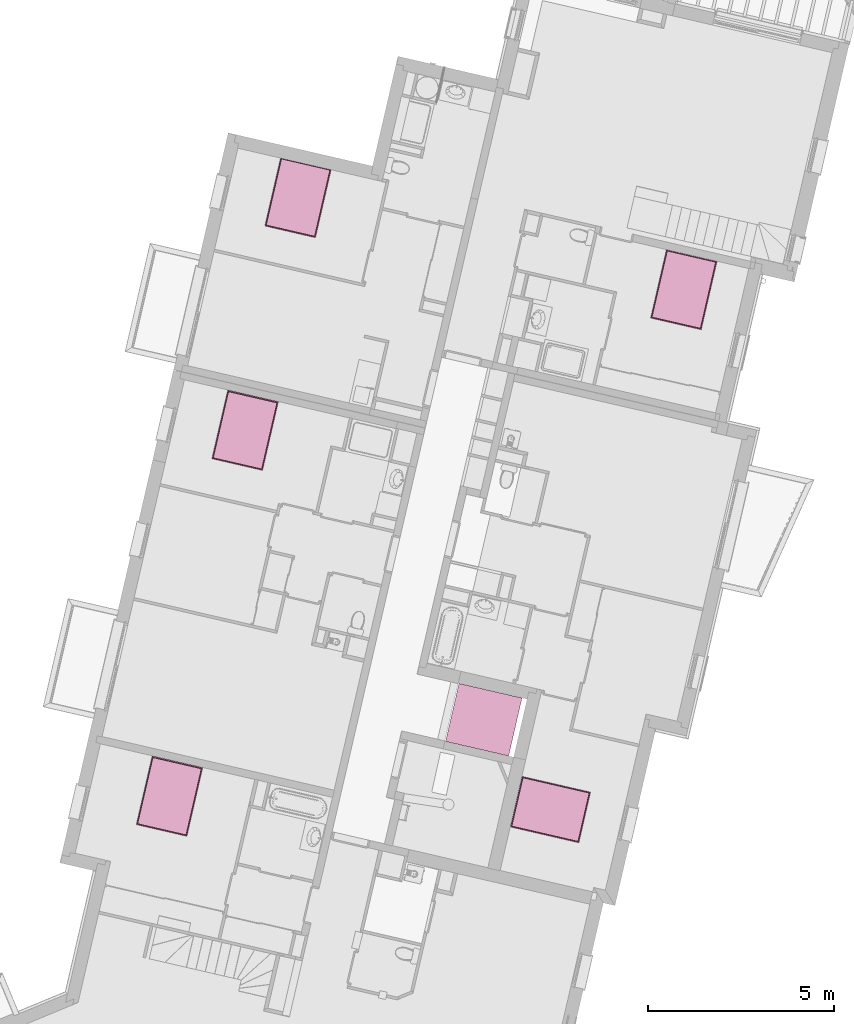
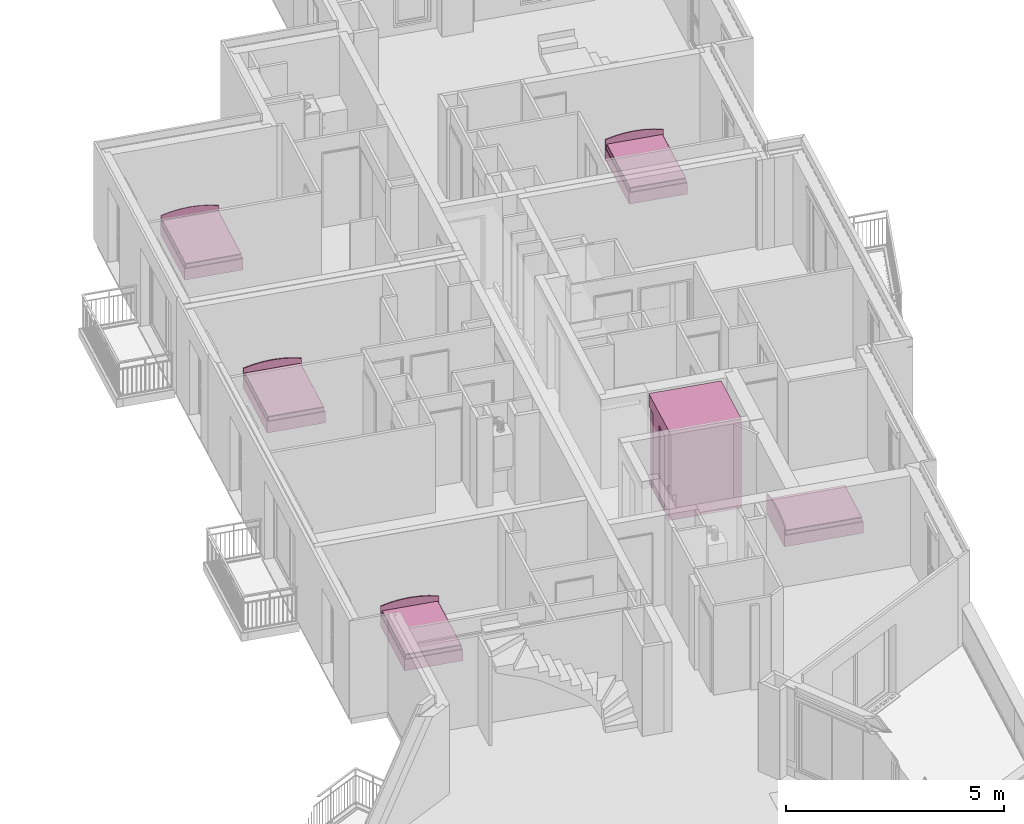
# One storey, part 56 of 62: 5 furnishings, 1 transport element.
"""IFC2X3 building model written with IfcOpenShell, lengths in metres."""

from ifc_helpers import new_model, entity, si_unit, converted_unit, derived_unit, money_unit, direction, frame, origin_with_axes, place, context, subcontext, project, spatial, faceted_brep, source, transform, mapped, type_object, element, save


model = new_model("IFC2X3")

# Units and contexts
model_context = context("Model", 3, precision=1e-05, world=origin_with_axes(), true_north=direction((0.0, 1.0)))
body_context = subcontext(model_context, "Body", "Model", "MODEL_VIEW")
ifc_project = project(units=[si_unit("LENGTHUNIT", "METRE"), si_unit("AREAUNIT", "SQUARE_METRE"), si_unit("VOLUMEUNIT", "CUBIC_METRE"), converted_unit("PLANEANGLEUNIT", "DEGREE", entity("IfcPlaneAngleMeasure", 0.0174532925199), si_unit("PLANEANGLEUNIT", "RADIAN"), dimensions=[0, 0, 0, 0, 0, 0, 0]), si_unit("SOLIDANGLEUNIT", "STERADIAN"), money_unit("EUR"), converted_unit("TIMEUNIT", "Year", entity("IfcTimeMeasure", 31556926.0), si_unit("TIMEUNIT", "SECOND"), dimensions=[0, 0, 1, 0, 0, 0, 0]), si_unit("MASSUNIT", "GRAM", prefix="KILO"), si_unit("THERMODYNAMICTEMPERATUREUNIT", "DEGREE_CELSIUS"), si_unit("LUMINOUSINTENSITYUNIT", "LUMEN"), si_unit("ENERGYUNIT", "JOULE", prefix="MEGA"), derived_unit("THERMALCONDUCTANCEUNIT", [(si_unit("POWERUNIT", "WATT"), 1), (si_unit("LENGTHUNIT", "METRE"), -1), (si_unit("THERMODYNAMICTEMPERATUREUNIT", "KELVIN"), -1)]), derived_unit("SPECIFICHEATCAPACITYUNIT", [(si_unit("ENERGYUNIT", "JOULE"), 1), (si_unit("MASSUNIT", "GRAM", prefix="KILO"), -1), (si_unit("THERMODYNAMICTEMPERATUREUNIT", "KELVIN"), -1)]), derived_unit("MASSDENSITYUNIT", [(si_unit("MASSUNIT", "GRAM", prefix="KILO"), 1), (si_unit("VOLUMEUNIT", "CUBIC_METRE"), -1)])], contexts=[model_context])

# Site, building, storey
site_placement = place(None, origin_with_axes())
site = spatial("IfcSite", under=ifc_project, at=site_placement, Name="Site", CompositionType="ELEMENT")
building_placement = place(site_placement, origin_with_axes())
building = spatial("IfcBuilding", under=site, at=building_placement, Name="Bâtiment", CompositionType="ELEMENT")
storey_placement = place(building_placement, frame((0.0, 0.0, 8.16), z_axis=(0.0, 0.0, 1.0), x_axis=(1.0, 0.0, 0.0)))
storey = spatial("IfcBuildingStorey", under=building, at=storey_placement, Name="R+3", CompositionType="ELEMENT", Elevation=8.16)

# Furnishings
furniture_type = type_object("IfcFurnitureType", Name="Lit double 23", AssemblyPlace="NOTDEFINED")
shared_shape_1 = source(origin_with_axes(), body_context, "Body", "Brep", [
    faceted_brep([(0.0, 1.9, 0.0), (1.4, 1.9, 0.0), (1.4, 1.87, 0.0), (0.0, 1.87, 0.0), (0.0, 1.9, 0.56), (0.229826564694, 1.9, 0.615389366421), (0.463857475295, 1.9, 0.64882235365), (0.7, 1.9, 0.66), (0.936142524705, 1.9, 0.64882235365), (1.17017343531, 1.9, 0.615389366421), (1.4, 1.9, 0.56), (1.4, 1.9, 0.5599), (1.4, 1.87, 0.5599), (1.4, 1.87, 0.56), (1.17017343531, 1.87, 0.615389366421), (0.936142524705, 1.87, 0.64882235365), (0.7, 1.87, 0.66), (0.463857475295, 1.87, 0.64882235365), (0.229826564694, 1.87, 0.615389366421), (0.0, 1.87, 0.56)], [[[0, 1, 2, 3]], [[0, 4, 5, 6, 7, 8, 9, 10, 11, 1]], [[1, 11, 12, 2]], [[3, 2, 12, 13, 14, 15, 16, 17, 18, 19]], [[4, 0, 3, 19]], [[5, 4, 19, 18]], [[6, 5, 18, 17]], [[7, 6, 17, 16]], [[8, 7, 16, 15]], [[9, 8, 15, 14]], [[10, 9, 14, 13]], [[11, 10, 13, 12]]]),
    faceted_brep([(1.4, 0.0, 0.0), (0.0, 0.0, 0.0), (0.0, 1.87, 0.0), (1.4, 1.87, 0.0), (1.4, 0.0, 0.32), (0.0, 0.0, 0.32), (0.0, 1.87, 0.32), (1.4, 1.87, 0.32)], [[[0, 1, 2, 3]], [[1, 0, 4, 5]], [[2, 1, 5, 6]], [[3, 2, 6, 7]], [[0, 3, 7, 4]], [[5, 4, 7, 6]]]),
    faceted_brep([(0.02, 0.04, 0.35), (0.02, 1.85, 0.35), (0.0215224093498, 1.85765366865, 0.35), (0.0258578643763, 1.86414213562, 0.35), (0.0323463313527, 1.86847759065, 0.35), (0.04, 1.87, 0.35), (1.36, 1.87, 0.35), (1.36765366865, 1.86847759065, 0.35), (1.37414213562, 1.86414213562, 0.35), (1.37847759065, 1.85765366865, 0.35), (1.38, 1.85, 0.35), (1.38, 0.04, 0.35), (1.37847759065, 0.0323463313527, 0.35), (1.37414213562, 0.0258578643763, 0.35), (1.36765366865, 0.0215224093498, 0.35), (1.36, 0.02, 0.35), (0.04, 0.02, 0.35), (0.0323463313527, 0.0215224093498, 0.35), (0.0258578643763, 0.0258578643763, 0.35), (0.0215224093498, 0.0323463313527, 0.35), (0.0199999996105, 0.0400000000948, 0.42), (0.0199999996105, 1.84999999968, 0.42), (0.0215224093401, 1.85765366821, 0.42), (0.0258578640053, 1.86414213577, 0.42), (0.0323463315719, 1.86847759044, 0.42), (0.0400000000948, 1.87000000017, 0.42), (1.36000000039, 1.87000000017, 0.42), (1.36765366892, 1.86847759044, 0.42), (1.37414213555, 1.86414213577, 0.42), (1.37847759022, 1.85765366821, 0.42), (1.37999999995, 1.84999999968, 0.42), (1.37999999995, 0.0400000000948, 0.42), (1.37847759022, 0.0323463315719, 0.42), (1.37414213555, 0.0258578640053, 0.42), (1.36765366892, 0.0215224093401, 0.42), (1.36000000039, 0.0199999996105, 0.42), (0.0400000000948, 0.0199999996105, 0.42), (0.0323463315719, 0.0215224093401, 0.42), (0.0258578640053, 0.0258578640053, 0.42), (0.0215224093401, 0.0323463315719, 0.42), (0.0215224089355, 0.0401499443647, 0.427653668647), (0.0215224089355, 1.84985005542, 0.427653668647), (0.0229564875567, 1.85705965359, 0.427653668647), (0.0269554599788, 1.8630445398, 0.427653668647), (0.0329403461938, 1.86704351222, 0.427653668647), (0.0401499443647, 1.86847759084, 0.427653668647), (1.35985005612, 1.86847759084, 0.427653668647), (1.36705965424, 1.86704351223, 0.427653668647), (1.37304453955, 1.86304453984, 0.427653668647), (1.377043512, 1.85705965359, 0.427653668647), (1.37847759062, 1.84985005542, 0.427653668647), (1.37847759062, 0.0401499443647, 0.427653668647), (1.377043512, 0.0329403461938, 0.427653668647), (1.37304453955, 0.0269554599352, 0.427653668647), (1.36705965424, 0.0229564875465, 0.427653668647), (1.35985005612, 0.0215224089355, 0.427653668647), (0.0401499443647, 0.0215224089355, 0.427653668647), (0.0329403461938, 0.0229564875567, 0.427653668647), (0.0269554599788, 0.0269554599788, 0.427653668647), (0.0229564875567, 0.0329403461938, 0.427653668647), (0.0323463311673, 0.0412160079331, 0.43847759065), (0.0323463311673, 1.84878399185, 0.43847759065), (0.0331523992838, 1.85283636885, 0.43847759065), (0.0347590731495, 1.85524092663, 0.43847759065), (0.0371636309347, 1.8568476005, 0.43847759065), (0.0412160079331, 1.85765366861, 0.43847759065), (1.35878399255, 1.85765366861, 0.43847759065), (1.36283636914, 1.85684760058, 0.43847759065), (1.36524092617, 1.85524092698, 0.43847759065), (1.36684760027, 1.85283636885, 0.43847759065), (1.36765366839, 1.84878399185, 0.43847759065), (1.36765366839, 0.0412160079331, 0.43847759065), (1.36684760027, 0.0371636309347, 0.43847759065), (1.36524092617, 0.0347590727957, 0.43847759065), (1.36283636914, 0.0331523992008, 0.43847759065), (1.35878399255, 0.0323463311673, 0.43847759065), (0.0412160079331, 0.0323463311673, 0.43847759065), (0.0371636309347, 0.0331523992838, 0.43847759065), (0.0347590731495, 0.0347590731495, 0.43847759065), (0.0331523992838, 0.0371636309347, 0.43847759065), (0.0400000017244, 0.0419698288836, 0.44000000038), (0.0400000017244, 1.8480301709, 0.44000000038), (0.0403268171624, 1.84967318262, 0.44000000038), (0.0399999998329, 1.84999999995, 0.439923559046), (0.0419698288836, 1.84999999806, 0.44000000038), (1.3580301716, 1.84999999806, 0.44000000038), (1.35967318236, 1.84967318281, 0.44000000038), (1.35999999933, 1.84999999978, 0.439923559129), (1.35999999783, 1.8480301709, 0.44000000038), (1.35999999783, 0.0419698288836, 0.44000000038), (1.35967318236, 0.0403268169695, 0.44000000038), (1.35999999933, 0.0399999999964, 0.439923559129), (1.3580301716, 0.0400000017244, 0.44000000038), (0.0419698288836, 0.0400000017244, 0.44000000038), (0.0403268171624, 0.0403268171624, 0.44000000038), (0.0399999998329, 0.0399999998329, 0.439923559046)], [[[0, 1, 2, 3, 4, 5, 6, 7, 8, 9, 10, 11, 12, 13, 14, 15, 16, 17, 18, 19]], [[1, 0, 20, 21]], [[2, 1, 21, 22]], [[3, 2, 22, 23]], [[4, 3, 23, 24]], [[5, 4, 24, 25]], [[6, 5, 25, 26]], [[7, 6, 26, 27]], [[8, 7, 27, 28]], [[9, 8, 28, 29]], [[10, 9, 29, 30]], [[11, 10, 30, 31]], [[12, 11, 31, 32]], [[13, 12, 32, 33]], [[14, 13, 33, 34]], [[15, 14, 34, 35]], [[16, 15, 35, 36]], [[17, 16, 36, 37]], [[18, 17, 37, 38]], [[19, 18, 38, 39]], [[0, 19, 39, 20]], [[21, 20, 40, 41]], [[22, 21, 41, 42]], [[23, 22, 42, 43]], [[24, 23, 43, 44]], [[25, 24, 44, 45]], [[26, 25, 45, 46]], [[27, 26, 46, 47]], [[28, 27, 47, 48]], [[29, 28, 48, 49]], [[30, 29, 49, 50]], [[31, 30, 50, 51]], [[32, 31, 51, 52]], [[33, 32, 52, 53]], [[34, 33, 53, 54]], [[35, 34, 54, 55]], [[36, 35, 55, 56]], [[37, 36, 56, 57]], [[38, 37, 57, 58]], [[39, 38, 58, 59]], [[20, 39, 59, 40]], [[41, 40, 60, 61]], [[42, 41, 61, 62]], [[43, 42, 62, 63]], [[44, 43, 63, 64]], [[45, 44, 64, 65]], [[46, 45, 65, 66]], [[47, 46, 66, 67]], [[48, 47, 67, 68]], [[49, 48, 68, 69]], [[50, 49, 69, 70]], [[51, 50, 70, 71]], [[52, 51, 71, 72]], [[53, 52, 72, 73]], [[54, 53, 73, 74]], [[55, 54, 74, 75]], [[56, 55, 75, 76]], [[57, 56, 76, 77]], [[58, 57, 77, 78]], [[59, 58, 78, 79]], [[40, 59, 79, 60]], [[61, 60, 80, 81]], [[62, 61, 81, 82, 83]], [[63, 62, 83]], [[64, 63, 83]], [[65, 64, 83, 82, 84]], [[66, 65, 84, 85]], [[67, 66, 85, 86, 87]], [[68, 67, 87]], [[69, 68, 87]], [[70, 69, 87, 86, 88]], [[71, 70, 88, 89]], [[72, 71, 89, 90, 91]], [[73, 72, 91]], [[74, 73, 91]], [[75, 74, 91, 90, 92]], [[76, 75, 92, 93]], [[77, 76, 93, 94, 95]], [[78, 77, 95]], [[79, 78, 95]], [[60, 79, 95, 94, 80]], [[81, 80, 94, 93, 92, 90, 89, 88, 86, 85, 84, 82]]]),
    faceted_brep([(0.02, 0.04, 0.35), (0.0215224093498, 0.0323463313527, 0.35), (0.0258578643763, 0.0258578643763, 0.35), (0.0323463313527, 0.0215224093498, 0.35), (0.04, 0.02, 0.35), (1.36, 0.02, 0.35), (1.36765366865, 0.0215224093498, 0.35), (1.37414213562, 0.0258578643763, 0.35), (1.37847759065, 0.0323463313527, 0.35), (1.38, 0.04, 0.35), (1.38, 1.85, 0.35), (1.37847759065, 1.85765366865, 0.35), (1.37414213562, 1.86414213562, 0.35), (1.36765366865, 1.86847759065, 0.35), (1.36, 1.87, 0.35), (0.04, 1.87, 0.35), (0.0323463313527, 1.86847759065, 0.35), (0.0258578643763, 1.86414213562, 0.35), (0.0215224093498, 1.85765366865, 0.35), (0.02, 1.85, 0.35), (0.0199999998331, 0.0400000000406, 0.32), (0.0215224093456, 0.0323463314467, 0.32), (0.0258578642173, 0.0258578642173, 0.32), (0.0323463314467, 0.0215224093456, 0.32), (0.0400000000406, 0.0199999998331, 0.32), (1.36000000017, 0.0199999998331, 0.32), (1.36765366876, 0.0215224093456, 0.32), (1.37414213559, 0.0258578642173, 0.32), (1.37847759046, 0.0323463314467, 0.32), (1.37999999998, 0.0400000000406, 0.32), (1.37999999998, 1.84999999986, 0.32), (1.37847759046, 1.85765366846, 0.32), (1.37414213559, 1.86414213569, 0.32), (1.36765366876, 1.86847759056, 0.32), (1.36000000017, 1.87000000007, 0.32), (0.0400000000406, 1.87000000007, 0.32), (0.0323463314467, 1.86847759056, 0.32), (0.0258578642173, 1.86414213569, 0.32), (0.0215224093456, 1.85765366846, 0.32), (0.0199999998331, 1.84999999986, 0.32)], [[[0, 1, 2, 3, 4, 5, 6, 7, 8, 9, 10, 11, 12, 13, 14, 15, 16, 17, 18, 19]], [[0, 20, 21, 1]], [[1, 21, 22, 2]], [[2, 22, 23, 3]], [[3, 23, 24, 4]], [[4, 24, 25, 5]], [[5, 25, 26, 6]], [[6, 26, 27, 7]], [[7, 27, 28, 8]], [[8, 28, 29, 9]], [[9, 29, 30, 10]], [[10, 30, 31, 11]], [[11, 31, 32, 12]], [[12, 32, 33, 13]], [[13, 33, 34, 14]], [[14, 34, 35, 15]], [[15, 35, 36, 16]], [[16, 36, 37, 17]], [[17, 37, 38, 18]], [[18, 38, 39, 19]], [[19, 39, 20, 0]], [[20, 39, 38, 37, 36, 35, 34, 33, 32, 31, 30, 29, 28, 27, 26, 25, 24, 23, 22, 21]]]),
])
for number, where, z_axis, x_axis, name in (
    (1, (-4.09566747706, 5.38890743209, 0.0), (0.0, 0.0, 1.0), (0.974387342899, -0.224876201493, 0.0), "MOB-002"),
    (2, (-17.9203593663, -8.22757564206, 0.0), (0.0, 0.0, 1.0), (0.974387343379, -0.224876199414, 0.0), "MOB-002"),
    (3, (-6.02163534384, -8.71688446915, 0.0), (0.0, 0.0, 1.0), (0.224876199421, 0.974387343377, 0.0), "MOB-002"),
    (4, (-14.4648951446, 7.86248181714, 0.0), (0.0, 0.0, 1.0), (0.974387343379, -0.224876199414, 0.0), "MOB-002"),
    (5, (-15.8879577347, 1.60742158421, 0.0), (0.0, 0.0, 1.0), (0.974387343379, -0.224876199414, 0.0), "MOB-002"),
):
    element("IfcFurnishingElement", number, at=place(storey_placement, frame(where, z_axis=z_axis, x_axis=x_axis)), inside=storey, type_object=furniture_type, Name=name, ObjectType="BED", context=body_context, shape_type="MappedRepresentation", body=[
        mapped(shared_shape_1, transform((0.0, 0.0, 0.0))),
    ])

# Transport element
transport_element_type = type_object("IfcTransportElementType", Name="Ascenseur 23", PredefinedType="ELEVATOR")
shared_shape_2 = source(origin_with_axes(), body_context, "Body", "Brep", [
    faceted_brep([(0.95, 0.21, 0.0), (0.5, 0.21, 0.0), (0.5, 0.21, 2.1), (0.95, 0.21, 2.1), (0.95, 0.19, 0.0), (0.5, 0.19, 0.0), (0.5, 0.19, 2.1), (0.95, 0.19, 2.1)], [[[0, 1, 2, 3]], [[1, 0, 4, 5]], [[2, 1, 5, 6]], [[3, 2, 6, 7]], [[0, 3, 7, 4]], [[5, 4, 7, 6]]]),
    faceted_brep([(1.4, 0.23, 0.0), (0.95, 0.23, 0.0), (0.95, 0.23, 2.1), (1.4, 0.23, 2.1), (1.4, 0.21, 0.0), (0.95, 0.21, 0.0), (0.95, 0.21, 2.1), (1.4, 0.21, 2.1)], [[[0, 1, 2, 3]], [[1, 0, 4, 5]], [[2, 1, 5, 6]], [[3, 2, 6, 7]], [[0, 3, 7, 4]], [[5, 4, 7, 6]]]),
    faceted_brep([(1.4, 0.27, 0.0), (1.669, 0.27, 0.0), (1.669, 1.85, 0.0), (0.231, 1.85, 0.0), (0.231, 0.27, 0.0), (0.5, 0.27, 0.0), (0.5, 0.23, 0.0), (0.151, 0.23, 0.0), (0.151, 1.93, 0.0), (1.749, 1.93, 0.0), (1.749, 0.19, 0.0), (1.4, 0.19, 0.0), (0.231, 0.27, 2.4), (1.669, 0.27, 2.4), (1.4, 0.27, 2.1), (0.5, 0.27, 2.1), (1.669, 1.85, 2.4), (0.231, 1.85, 2.4), (0.5, 0.23, 2.1), (0.151, 0.23, 2.1), (0.151, 0.19, 2.1), (0.151, 0.19, 2.4), (0.151, 1.93, 2.4), (1.749, 1.93, 2.4), (1.749, 0.19, 2.4), (1.4, 0.19, 2.1)], [[[0, 1, 2, 3, 4, 5, 6, 7, 8, 9, 10, 11]], [[12, 13, 1, 0, 14, 15, 5, 4]], [[13, 16, 2, 1]], [[16, 17, 3, 2]], [[17, 12, 4, 3]], [[5, 15, 18, 6]], [[18, 19, 7, 6]], [[19, 20, 21, 22, 8, 7]], [[23, 9, 8, 22]], [[24, 10, 9, 23]], [[21, 20, 25, 11, 10, 24]], [[14, 0, 11, 25]], [[22, 21, 24, 23], [12, 17, 16, 13]], [[15, 14, 25, 20, 19, 18]]]),
    faceted_brep([(0.151, 0.19, -0.05), (1.749, 0.19, -0.05), (1.749, 0.19, 0.0), (0.151, 0.19, 0.0), (0.151, 1.93, -0.05), (1.749, 1.93, -0.05), (1.749, 1.93, 0.0), (0.151, 1.93, 0.0)], [[[0, 1, 2, 3]], [[0, 4, 5, 1]], [[1, 5, 6, 2]], [[3, 2, 6, 7]], [[4, 0, 3, 7]], [[5, 4, 7, 6]]]),
    faceted_brep([(0.151, 0.19, 2.4), (1.749, 0.19, 2.4), (1.749, 0.19, 2.45), (0.151, 0.19, 2.45), (0.151, 1.93, 2.4), (1.749, 1.93, 2.4), (1.749, 1.93, 2.45), (0.151, 1.93, 2.45)], [[[0, 1, 2, 3]], [[0, 4, 5, 1]], [[1, 5, 6, 2]], [[3, 2, 6, 7]], [[4, 0, 3, 7]], [[5, 4, 7, 6]]]),
    faceted_brep([(1.669, 0.37, 1.0), (1.669, 0.47, 1.0), (1.669, 0.47, 1.075), (1.669, 0.37, 1.075), (1.659, 0.37, 1.0), (1.659, 0.47, 1.0), (1.659, 0.47, 1.075), (1.659, 0.37, 1.075)], [[[0, 1, 2, 3]], [[1, 0, 4, 5]], [[2, 1, 5, 6]], [[3, 2, 6, 7]], [[0, 3, 7, 4]], [[5, 4, 7, 6]]]),
    faceted_brep([(1.659, 0.450428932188, 1.00542893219), (1.659, 0.450428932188, 1.01957106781), (1.654, 0.451843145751, 1.01815685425), (1.654, 0.451843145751, 1.00684314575), (1.659, 0.464571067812, 1.00542893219), (1.659, 0.464571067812, 1.01957106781), (1.654, 0.463156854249, 1.01815685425), (1.654, 0.463156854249, 1.00684314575)], [[[0, 1, 2, 3]], [[0, 4, 5, 1]], [[1, 5, 6, 2]], [[3, 2, 6, 7]], [[4, 0, 3, 7]], [[5, 4, 7, 6]]]),
    faceted_brep([(1.659, 0.425428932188, 1.00542893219), (1.659, 0.425428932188, 1.01957106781), (1.654, 0.426843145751, 1.01815685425), (1.654, 0.426843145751, 1.00684314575), (1.659, 0.439571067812, 1.00542893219), (1.659, 0.439571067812, 1.01957106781), (1.654, 0.438156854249, 1.01815685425), (1.654, 0.438156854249, 1.00684314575)], [[[0, 1, 2, 3]], [[0, 4, 5, 1]], [[1, 5, 6, 2]], [[3, 2, 6, 7]], [[4, 0, 3, 7]], [[5, 4, 7, 6]]]),
    faceted_brep([(1.659, 0.400428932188, 1.00542893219), (1.659, 0.400428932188, 1.01957106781), (1.654, 0.401843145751, 1.01815685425), (1.654, 0.401843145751, 1.00684314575), (1.659, 0.414571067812, 1.00542893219), (1.659, 0.414571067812, 1.01957106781), (1.654, 0.413156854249, 1.01815685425), (1.654, 0.413156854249, 1.00684314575)], [[[0, 1, 2, 3]], [[0, 4, 5, 1]], [[1, 5, 6, 2]], [[3, 2, 6, 7]], [[4, 0, 3, 7]], [[5, 4, 7, 6]]]),
    faceted_brep([(1.659, 0.375428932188, 1.00542893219), (1.659, 0.375428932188, 1.01957106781), (1.654, 0.376843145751, 1.01815685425), (1.654, 0.376843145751, 1.00684314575), (1.659, 0.389571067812, 1.00542893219), (1.659, 0.389571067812, 1.01957106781), (1.654, 0.388156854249, 1.01815685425), (1.654, 0.388156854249, 1.00684314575)], [[[0, 1, 2, 3]], [[0, 4, 5, 1]], [[1, 5, 6, 2]], [[3, 2, 6, 7]], [[4, 0, 3, 7]], [[5, 4, 7, 6]]]),
    faceted_brep([(1.659, 0.450428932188, 1.05542893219), (1.659, 0.450428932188, 1.06957106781), (1.654, 0.451843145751, 1.06815685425), (1.654, 0.451843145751, 1.05684314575), (1.659, 0.464571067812, 1.05542893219), (1.659, 0.464571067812, 1.06957106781), (1.654, 0.463156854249, 1.06815685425), (1.654, 0.463156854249, 1.05684314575)], [[[0, 1, 2, 3]], [[0, 4, 5, 1]], [[1, 5, 6, 2]], [[3, 2, 6, 7]], [[4, 0, 3, 7]], [[5, 4, 7, 6]]]),
])
transport_element_placement = place(storey_placement, frame((-9.39707466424, -4.24324675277, 0.0), z_axis=(0.0, 0.0, 1.0), x_axis=(-0.224876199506, -0.974387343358, 0.0)))
element("IfcTransportElement", 6, at=transport_element_placement, inside=storey, type_object=transport_element_type, Name="MOB-001", ObjectType="ELEVATOR", context=body_context, shape_type="MappedRepresentation", body=[
    mapped(shared_shape_2, transform((0.0, 0.0, 0.0))),
])

save(model, "model.ifc")
